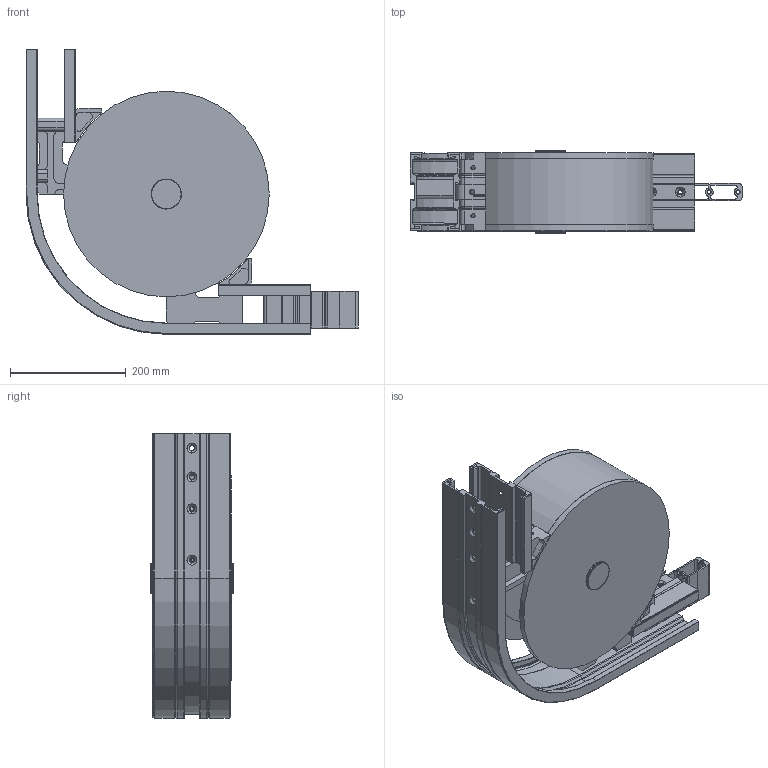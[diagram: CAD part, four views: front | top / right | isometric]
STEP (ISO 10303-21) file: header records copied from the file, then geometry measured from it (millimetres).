
FILE_DESCRIPTION (( 'STEP AP203' ), '1' );
FILE_NAME ('R2C200-90.STEP', '2008-12-02T09:29:35', ( 'faber' ), ( '' ), 'SwSTEP 2.0', 'SolidWorks 2008', '' );
FILE_SCHEMA (( 'CONFIG_CONTROL_DESIGN' ));
Length unit declared in the file: millimetre
Products named in the file (1): R2C200-90
Bounding box: 574.75 x 145.2 x 493 mm (x, y, z)
Surface area: 1312008.2 mm2 (no closed solid volume)
Topology: 0 solids, 180 shells, 1001 faces, 3732 edges, 2855 vertices
Faces by surface type: plane 546, cylinder 308, torus 106, cone 28, bspline 13
Entity records: 44872 total; most frequent: CARTESIAN_POINT 14328, DIRECTION 6172, ORIENTED_EDGE 5493, EDGE_CURVE 3732, VERTEX_POINT 2855, AXIS2_PLACEMENT_3D 2126, LINE 1920, VECTOR 1920
